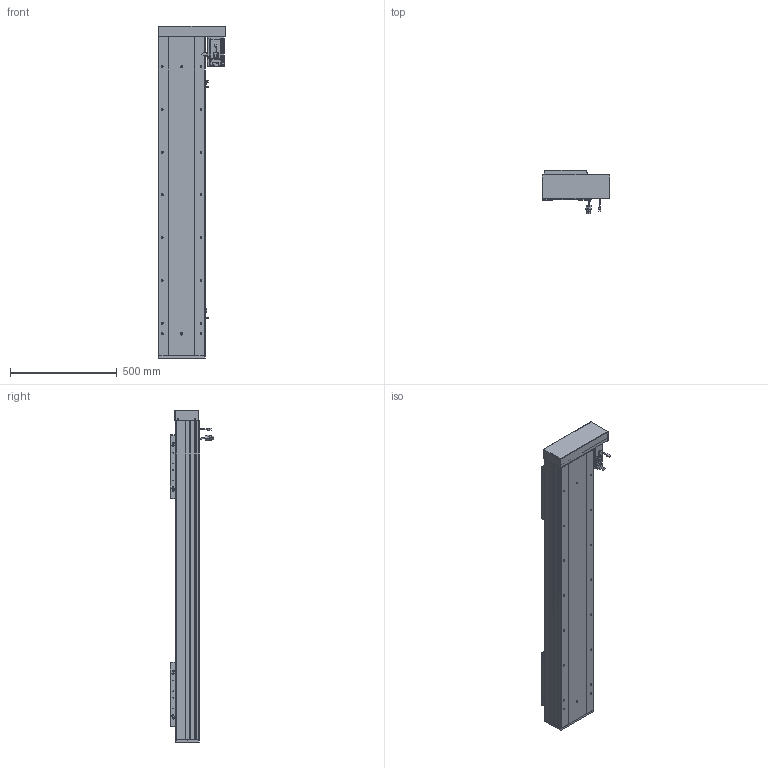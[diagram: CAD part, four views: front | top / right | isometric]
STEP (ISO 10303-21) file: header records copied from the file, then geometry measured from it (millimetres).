
FILE_DESCRIPTION (( 'STEP AP203' ), '1' );
FILE_NAME ('RY220F-L2525-800-RK-邧嶺.SLDASM_1050.step', '2022-08-06T08:19:07', ( '' ), ( '' ), 'SwSTEP 2.0', 'SolidWorks 2016', '' );
FILE_SCHEMA (( 'CONFIG_CONTROL_DESIGN' ));
Length unit declared in the file: millimetre
Products named in the file (15): RY220F臏賑釱25-32佪裝; RY220F綴裔啣; 怢湛750W_ECMA-CX0807ES; RY220F蛌殏菁釱-800-邧嶺_1050; 侐源滅袉蝶; RY220F-蛌殏奻裔啣-800_1050; RY220F-672覜茼んえ; RY220F-詩湍揤踡輸; RY220F-L2525-800-RK-邧嶺.SLDASM_1050; 覜茼ん672; RY220F-祥凄詩湍-蛌殏-800_1050; RY220F-滅鳥奻裔; RY220酘衵殏萇儂欶; RY220左右折电机安装板; 滅袉蝶18-24
Assembly tree (24 placements, depth 2):
  RY220F-L2525-800-RK-邧嶺.SLDASM_1050
    RY220F蛌殏菁釱-800-邧嶺_1050
    RY220F-蛌殏奻裔啣-800_1050  x2
    怢湛750W_ECMA-CX0807ES
    RY220F臏賑釱25-32佪裝  x2
    RY220F-滅鳥奻裔  x2
    滅袉蝶18-24  x3
    RY220F綴裔啣
    RY220F-祥凄詩湍-蛌殏-800_1050
    RY220F-詩湍揤踡輸  x2
    覜茼ん672  x3
    RY220F-672覜茼んえ  x2
    RY220左右折电机安装板
    RY220酘衵殏萇儂欶
    侐源滅袉蝶  x2
Bounding box: 317.5 x 205.27 x 1553 mm (x, y, z)
Volume: 14955667.1 mm3; surface area: 3918248.7 mm2
Topology: 25 solids, 25 shells, 2764 faces, 7520 edges, 4656 vertices
Faces by surface type: cylinder 1246, plane 1044, cone 403, bspline 45, sphere 16, torus 10
Entity records: 68584 total; most frequent: CARTESIAN_POINT 18629, ORIENTED_EDGE 10094, DIRECTION 9812, EDGE_CURVE 5047, AXIS2_PLACEMENT_3D 3490, VERTEX_POINT 3272, LINE 2832, VECTOR 2832
